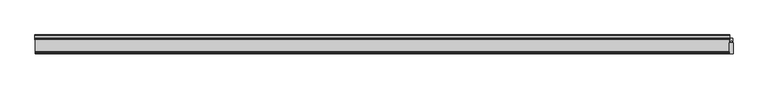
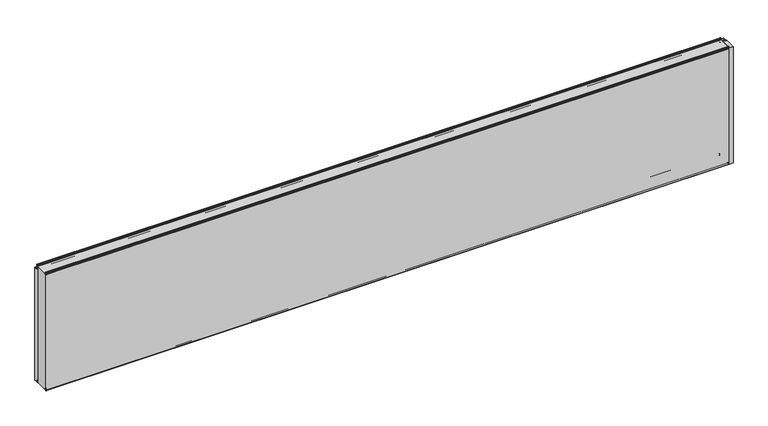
"""IFC4 building model written with IfcOpenShell, lengths in millimetres: plate geometry, Fronttop : Fronttop 150/1000."""

import ifcopenshell
import ifcopenshell.guid

model = None  # the IFC model being written
_history = None  # IfcOwnerHistory: only IFC2X3 demands one
_inside = {}  # id of a spatial element -> (the spatial element, [elements in it])
_under = {}  # id of a project, library or spatial element -> (it, [spatial elements below it])
_declared = {}  # id of a project -> (the project, [libraries it declares])
_typed = {}  # id of a type object -> (the type object, [elements of that type])
_made_of = {}  # id of a material, layer set ... -> (it, [elements and type objects made of it])


def new_model(schema):
    """Start an empty IFC model of exactly this schema.

    Asked for "IFC4X3", IfcOpenShell would pick the latest addendum, in which some entities
    have other attributes; the version numbers below select the first issue.
    IFC2X3 requires an IfcOwnerHistory on every rooted entity: one is made here for all.
    """
    global model, _history
    if schema == "IFC4X3":
        model = ifcopenshell.file(schema_version=(4, 3, 0, 0))
    else:
        model = ifcopenshell.file(schema=schema)
    _inside.clear()
    _under.clear()
    _declared.clear()
    _typed.clear()
    _made_of.clear()
    _history = None
    if model.schema == "IFC2X3":
        org = make("IfcOrganization", Name="unknown")
        user = make(
            "IfcPersonAndOrganization",
            ThePerson=make("IfcPerson", FamilyName="unknown"),
            TheOrganization=org,
        )
        app = make(
            "IfcApplication",
            ApplicationDeveloper=org,
            Version="unknown",
            ApplicationFullName="unknown",
            ApplicationIdentifier="unknown",
        )
        _history = make(
            "IfcOwnerHistory",
            OwningUser=user,
            OwningApplication=app,
            ChangeAction="ADDED",
            CreationDate=0,
        )
    return model


def make(cls, **values):
    """One entity of the class cls with the attributes given. An attribute that is None is left unset."""
    return model.create_entity(
        cls, **{name: value for name, value in values.items() if value is not None}
    )


def rooted(cls, **values):
    """An entity with a GlobalId (a new one), such as an element, a storey or a relation."""
    return make(cls, GlobalId=ifcopenshell.guid.new(), OwnerHistory=_history, **values)


def si_unit(unit_type, name, prefix=None):
    """IfcSIUnit, for example si_unit("LENGTHUNIT", "METRE", prefix="MILLI")."""
    return make("IfcSIUnit", UnitType=unit_type, Prefix=prefix, Name=name)


def assignment(units):
    """IfcUnitAssignment: the units of a project."""
    return None if units is None else make("IfcUnitAssignment", Units=units)


def point(xyz):
    """IfcCartesianPoint."""
    return None if xyz is None else make("IfcCartesianPoint", Coordinates=xyz)


def direction(xyz):
    """IfcDirection."""
    return None if xyz is None else make("IfcDirection", DirectionRatios=xyz)


def frame(location, z_axis=None, x_axis=None):
    """IfcAxis2Placement3D, a coordinate frame: its origin and axes. An axis left out is left unset."""
    return make(
        "IfcAxis2Placement3D",
        Location=point(location),
        Axis=direction(z_axis),
        RefDirection=direction(x_axis),
    )


def frame_2d(location, x_axis=None):
    """IfcAxis2Placement2D, a coordinate frame in the plane: its origin and x axis."""
    return make(
        "IfcAxis2Placement2D", Location=point(location), RefDirection=direction(x_axis)
    )


def origin():
    """The frame at (0, 0, 0) with its axes left unset."""
    return frame((0.0, 0.0, 0.0))


def origin_with_axes():
    """The frame at (0, 0, 0) with the z axis (0, 0, 1) and the x axis (1, 0, 0) written out."""
    return frame((0.0, 0.0, 0.0), z_axis=(0.0, 0.0, 1.0), x_axis=(1.0, 0.0, 0.0))


def place(relative_to, where):
    """IfcLocalPlacement: puts the frame where relative to a parent placement (None: the world)."""
    return make(
        "IfcLocalPlacement", PlacementRelTo=relative_to, RelativePlacement=where
    )


def context(
    kind, dimensions, precision=None, world=None, true_north=None, identifier=None
):
    """IfcGeometricRepresentationContext, for example the 3D "Model" context."""
    return make(
        "IfcGeometricRepresentationContext",
        ContextIdentifier=identifier,
        ContextType=kind,
        CoordinateSpaceDimension=dimensions,
        Precision=precision,
        WorldCoordinateSystem=world,
        TrueNorth=true_north,
    )


def project(units=None, contexts=None):
    """IfcProject with its units and contexts."""
    return rooted(
        "IfcProject",
        Name="project",
        RepresentationContexts=contexts,
        UnitsInContext=assignment(units),
    )


def spatial(cls, under=None, at=None, **own):
    """A site, building, storey or space (cls), placed at a placement, below another one or the project."""
    s = rooted(cls, ObjectPlacement=at, **own)
    if under is not None:
        _under.setdefault(under.id(), (under, []))[1].append(s)
    return s


def polyline(points):
    """IfcPolyline through the points."""
    return make("IfcPolyline", Points=[point(p) for p in points])


def circle_curve(where, radius):
    """IfcCircle in the frame where."""
    return make("IfcCircle", Position=where, Radius=radius)


def trimmed(basis, trim1, trim2, sense, master):
    """IfcTrimmedCurve: the piece of a basis curve between two trims."""
    return make(
        "IfcTrimmedCurve",
        BasisCurve=basis,
        Trim1=trim1,
        Trim2=trim2,
        SenseAgreement=sense,
        MasterRepresentation=master,
    )


def segment(curve, same_sense, transition):
    """IfcCompositeCurveSegment."""
    return make(
        "IfcCompositeCurveSegment",
        Transition=transition,
        SameSense=same_sense,
        ParentCurve=curve,
    )


def composite_curve(segments, self_intersect=None):
    """IfcCompositeCurve: segments joined end to end."""
    return make("IfcCompositeCurve", Segments=segments, SelfIntersect=self_intersect)


def outline(outer, holes=None, kind="AREA"):
    """IfcArbitraryClosedProfileDef: a profile drawn as a closed curve; with holes, ...WithVoids."""
    if holes is None:
        return make("IfcArbitraryClosedProfileDef", ProfileType=kind, OuterCurve=outer)
    return make(
        "IfcArbitraryProfileDefWithVoids",
        ProfileType=kind,
        OuterCurve=outer,
        InnerCurves=holes,
    )


def extrude(swept, where, along, depth):
    """IfcExtrudedAreaSolid: the profile swept, set in the frame where, extruded along a direction by depth."""
    return make(
        "IfcExtrudedAreaSolid",
        SweptArea=swept,
        Position=where,
        ExtrudedDirection=direction(along),
        Depth=depth,
    )


def shape(context_of_items, identifier, shape_type, items):
    """IfcShapeRepresentation: the items that make up one representation, for example the "Body"."""
    return make(
        "IfcShapeRepresentation",
        ContextOfItems=context_of_items,
        RepresentationIdentifier=identifier,
        RepresentationType=shape_type,
        Items=items,
    )


def source(mapping_origin, context_of_items, identifier, shape_type, items):
    """IfcRepresentationMap: a shape defined once, which mapped items show again and again."""
    return make(
        "IfcRepresentationMap",
        MappingOrigin=mapping_origin,
        MappedRepresentation=shape(context_of_items, identifier, shape_type, items),
    )


def transform(
    local_origin,
    x_axis=None,
    y_axis=None,
    z_axis=None,
    scale=None,
    scale2=None,
    scale3=None,
    uniform=True,
):
    """IfcCartesianTransformationOperator3D, or its non-uniform kind. x_axis, y_axis, z_axis: its Axis1, 2, 3."""
    if uniform:
        return make(
            "IfcCartesianTransformationOperator3D",
            Axis1=direction(x_axis),
            Axis2=direction(y_axis),
            LocalOrigin=point(local_origin),
            Scale=scale,
            Axis3=direction(z_axis),
        )
    return make(
        "IfcCartesianTransformationOperator3DnonUniform",
        Axis1=direction(x_axis),
        Axis2=direction(y_axis),
        LocalOrigin=point(local_origin),
        Scale=scale,
        Axis3=direction(z_axis),
        Scale2=scale2,
        Scale3=scale3,
    )


def mapped(mapping_source, mapping_target):
    """IfcMappedItem: shows the shape of a source again, moved by a transform."""
    return make(
        "IfcMappedItem", MappingSource=mapping_source, MappingTarget=mapping_target
    )


def made_of(thing, what):
    """Note that an element or type object is made of a material, layer set ...; save() writes the relation."""
    if what is not None:
        _made_of.setdefault(what.id(), (what, []))[1].append(thing)
    return thing


def element(
    cls,
    number,
    at=None,
    inside=None,
    cuts=None,
    type_object=None,
    material=None,
    context=None,
    identifier="Body",
    shape_type=None,
    held_by="IfcProductDefinitionShape",
    body=None,
    shapes=None,
    **own,
):
    """One element of the class cls, such as IfcWall. Its Tag is "e" and its number.

    at: its placement. inside: the storey or other place that contains it. cuts: it is an
    opening in that element (IfcRelVoidsElement). A single representation is given by context,
    identifier, shape_type and body (its items); several are given by shapes. held_by: the class
    of the entity that holds the representations. save() writes the other relations.
    """
    e = rooted(cls, Tag="e%d" % number, ObjectPlacement=at, **own)
    if body is not None:
        shapes = [shape(context, identifier, shape_type, body)]
    if shapes is not None:
        e.Representation = make(held_by, Representations=shapes)
    if inside is not None:
        _inside.setdefault(inside.id(), (inside, []))[1].append(e)
    if cuts is not None:
        rooted(
            "IfcRelVoidsElement", RelatingBuildingElement=cuts, RelatedOpeningElement=e
        )
    if type_object is not None:
        _typed.setdefault(type_object.id(), (type_object, []))[1].append(e)
    return made_of(e, material)


def aggregate(whole, parts):
    """IfcRelAggregates: a whole, such as a stair, and the parts it consists of."""
    return rooted("IfcRelAggregates", RelatingObject=whole, RelatedObjects=parts)


def save(model, path):
    """Write the relations noted so far, then the file.

    IfcRelAggregates (storeys below a building ...), IfcRelContainedInSpatialStructure (elements
    in a storey), IfcRelDefinesByType, IfcRelAssociatesMaterial and IfcRelDeclares: one each for
    every whole, place, type object, material and project.
    """
    for whole, parts in _under.values():
        aggregate(whole, parts)
    for where, things in _inside.values():
        rooted(
            "IfcRelContainedInSpatialStructure",
            RelatedElements=things,
            RelatingStructure=where,
        )
    for kind, things in _typed.values():
        rooted("IfcRelDefinesByType", RelatedObjects=things, RelatingType=kind)
    for what, things in _made_of.values():
        rooted("IfcRelAssociatesMaterial", RelatedObjects=things, RelatingMaterial=what)
    for by, libraries in _declared.values():
        rooted("IfcRelDeclares", RelatingContext=by, RelatedDefinitions=libraries)
    model.write(path)


def plane_surface(at):
    """IfcPlane: the flat surface through the origin of the frame at, square to its z axis."""
    return make("IfcPlane", Position=at)


def cylinder_surface(at, radius):
    """IfcCylindricalSurface: all points at the distance radius from the z axis of the frame at."""
    return make("IfcCylindricalSurface", Position=at, Radius=radius)


def revolved_surface(curve, axis_point, axis_direction):
    """IfcSurfaceOfRevolution: the curve turned about the line through axis_point along axis_direction."""
    return make(
        "IfcSurfaceOfRevolution",
        SweptCurve=make("IfcArbitraryOpenProfileDef", ProfileType="CURVE", Curve=curve),
        AxisPosition=make("IfcAxis1Placement", Location=point(axis_point), Axis=direction(axis_direction)),
    )


def advanced_brep(points, edges, surfaces, faces):
    """IfcAdvancedBrep: a solid bounded by faces that lie on surfaces and meet in shared edges.

    An edge is (start, end): straight between two places in points (the first is 0);
    or (start, end, curve); or (start, end, curve, False) where it runs against its curve.
    A face is (place in surfaces, loops), or (place, loops, False) where it looks against
    its surface's normal. A loop lists edges by number (the first is 1), with a minus sign
    where the edge is run from its end to its start. The first loop is the outer one.
    """
    corners = [point(p) for p in points]
    vertices = [make("IfcVertexPoint", VertexGeometry=c) for c in corners]
    made = []
    for start, end, *more in edges:
        made.append(
            make(
                "IfcEdgeCurve",
                EdgeStart=vertices[start],
                EdgeEnd=vertices[end],
                EdgeGeometry=more[0] if more else make("IfcPolyline", Points=[corners[start], corners[end]]),
                SameSense=more[1] if len(more) > 1 else True,
            )
        )
    hull = []
    for where, loops, *sense in faces:
        bounds = []
        for j, loop in enumerate(loops):
            ring = [make("IfcOrientedEdge", EdgeElement=made[abs(k) - 1], Orientation=k > 0) for k in loop]
            bounds.append(
                make(
                    "IfcFaceOuterBound" if j == 0 else "IfcFaceBound",
                    Bound=make("IfcEdgeLoop", EdgeList=ring),
                    Orientation=True,
                )
            )
        hull.append(make("IfcAdvancedFace", Bounds=bounds, FaceSurface=surfaces[where], SameSense=sense[0] if sense else True))
    return make("IfcAdvancedBrep", Outer=make("IfcClosedShell", CfsFaces=hull))


def plate_40149e77(model_context):
    return source(origin(), model_context, "Body", "SolidModel", [
        advanced_brep(
        [(-2786.5, 124.0, 1008.0), (-2786.5, 121.0, 1008.0), (-2786.5, 121.0, 1004.0), (-2786.5, 117.0, 1000.0), (-2786.5, 115.0, 1000.0), (-2786.5, 115.0, 1001.0), (-2786.5, 117.0, 1001.0), (-2786.5, 120.0, 1004.0), (-2786.5, 120.0, 1008.0), (-2786.5, 125.0, 1008.0), (-2786.5, 125.0, 1000.0), (-2786.5, 124.0, 1000.0), (2786.5, 125.0, 1008.0), (2786.5, 120.0, 1008.0), (2786.5, 120.0, 1004.0), (2786.5, 117.0, 1001.0), (2786.5, 115.0, 1001.0), (2786.5, 115.0, 1000.0), (2786.5, 117.0, 1000.0), (2786.5, 121.0, 1004.0), (2786.5, 121.0, 1008.0), (2786.5, 124.0, 1008.0), (2786.5, 124.0, 1000.0), (2786.5, 125.0, 1000.0), (-2786.5, 117.0, 2.0), (2786.5, 117.0, 2.0), (2786.5, 115.0, 2.0), (-2786.5, 115.0, 2.0), (-2786.5, 119.0, 4.0), (2786.5, 119.0, 4.0), (-2786.5, 119.0, 8.0), (2786.5, 119.0, 8.0), (-2786.5, 126.0, 8.0), (2786.5, 126.0, 8.0), (-2786.5, 126.0, 0.0), (2786.5, 126.0, 0.0), (-2786.5, 129.0, -3.0), (2786.5, 129.0, -3.0), (-2786.5, 125.0, -3.0), (-2787.5, 125.0, -3.0), (-2787.5, 147.0, -3.0), (-2786.5, 147.0, -3.0), (2786.5, 147.0, -3.0), (2787.5, 147.0, -3.0), (2787.5, 125.0, -3.0), (2786.5, 125.0, -3.0), (-2786.5, 150.0, 0.0), (2786.5, 150.0, 0.0), (-2787.5, 150.0, 0.0), (-2787.5, 150.0, 969.0), (-2786.5, 150.0, 969.0), (2786.5, 150.0, 969.0), (2787.5, 150.0, 969.0), (2787.5, 150.0, 0.0), (-2786.5, 147.0, 972.0), (2786.5, 147.0, 972.0), (-2787.5, 147.0, 972.0), (-2787.5, 128.0, 972.0), (-2786.5, 128.0, 972.0), (2786.5, 128.0, 972.0), (2787.5, 128.0, 972.0), (2787.5, 147.0, 972.0), (-2786.5, 125.0, 975.0), (2786.5, 125.0, 975.0), (-2787.5, 125.0, 975.0), (-2787.5, 125.0, 1000.0), (2787.5, 125.0, 1000.0), (2787.5, 125.0, 975.0), (-2786.5, 124.0, 975.0), (2786.5, 124.0, 975.0), (-2786.5, 128.0, 971.0), (2786.5, 128.0, 971.0), (-2786.5, 147.0, 971.0), (2786.5, 147.0, 971.0), (-2786.5, 149.0, 969.0), (2786.5, 149.0, 969.0), (-2786.5, 149.0, 0.0), (2786.5, 149.0, 0.0), (-2786.5, 147.0, -2.0), (2786.5, 147.0, -2.0), (-2786.5, 129.0, -2.0), (2786.5, 129.0, -2.0), (-2786.5, 127.0, 0.0), (2786.5, 127.0, 0.0), (-2786.5, 127.0, 8.0), (2786.5, 127.0, 8.0), (-2786.5, 118.0, 8.0), (2786.5, 118.0, 8.0), (-2786.5, 118.0, 4.0), (2786.5, 118.0, 4.0), (-2786.5, 117.0, 3.0), (2786.5, 117.0, 3.0), (-2786.5, 115.0, 3.0), (2786.5, 115.0, 3.0), (2787.5, 110.0, 1000.0), (2787.5, 110.0, 0.0), (2787.5, 125.0, 0.0), (2786.5, 125.0, 0.0), (2786.5, 110.0, 0.0), (2786.5, 110.0, 1000.0), (-2787.5, 125.0, 0.0), (-2787.5, 110.0, 0.0), (-2787.5, 110.0, 1000.0), (-2786.5, 110.0, 1000.0), (-2786.5, 110.0, 0.0), (-2786.5, 125.0, 0.0)],
        [
            (0, 1, circle_curve(frame((-2786.5, 122.5, 1008.0), z_axis=(1.0, 0.0, 0.0), x_axis=(0.0, -1.0, 0.0)), 1.5)),
            (1, 2),
            (2, 3, circle_curve(frame((-2786.5, 117.0, 1004.0), z_axis=(-1.0, 0.0, 0.0), x_axis=(0.0, -1.0, 0.0)), 4.0)),
            (3, 4),
            (4, 5),
            (5, 6),
            (6, 7, circle_curve(frame((-2786.5, 117.0, 1004.0), z_axis=(1.0, 0.0, 0.0), x_axis=(0.0, -1.0, 0.0)), 3.0)),
            (7, 8),
            (8, 9, circle_curve(frame((-2786.5, 122.5, 1008.0), z_axis=(-1.0, 0.0, 0.0), x_axis=(0.0, -1.0, 0.0)), 2.5)),
            (9, 10),
            (10, 11),
            (11, 0),
            (12, 13, circle_curve(frame((2786.5, 122.5, 1008.0), z_axis=(1.0, 0.0, 0.0), x_axis=(0.0, -1.0, 0.0)), 2.5)),
            (13, 14),
            (14, 15, circle_curve(frame((2786.5, 117.0, 1004.0), z_axis=(-1.0, 0.0, 0.0), x_axis=(0.0, -1.0, 0.0)), 3.0)),
            (15, 16),
            (16, 17),
            (17, 18),
            (18, 19, circle_curve(frame((2786.5, 117.0, 1004.0), z_axis=(1.0, 0.0, 0.0), x_axis=(0.0, -1.0, 0.0)), 4.0)),
            (19, 20),
            (20, 21, circle_curve(frame((2786.5, 122.5, 1008.0), z_axis=(-1.0, 0.0, 0.0), x_axis=(0.0, -1.0, 0.0)), 1.5)),
            (21, 22),
            (22, 23),
            (23, 12),
            (24, 25),
            (25, 26),
            (26, 27),
            (27, 24),
            (24, 28, circle_curve(frame((-2786.5, 117.0, 4.0), z_axis=(1.0, 0.0, 0.0), x_axis=(0.0, -1.0, 0.0)), 2.0)),
            (28, 29),
            (29, 25, circle_curve(frame((2786.5, 117.0, 4.0), z_axis=(-1.0, 0.0, 0.0), x_axis=(0.0, -1.0, 0.0)), 2.0)),
            (28, 30),
            (30, 31),
            (31, 29),
            (30, 32, circle_curve(frame((-2786.5, 122.5, 8.0), z_axis=(-1.0, 0.0, 0.0), x_axis=(0.0, -1.0, 0.0)), 3.5)),
            (32, 33),
            (33, 31, circle_curve(frame((2786.5, 122.5, 8.0), z_axis=(1.0, 0.0, 0.0), x_axis=(0.0, -1.0, 0.0)), 3.5)),
            (32, 34),
            (34, 35),
            (35, 33),
            (34, 36, circle_curve(frame((-2786.5, 129.0, 0.0), z_axis=(1.0, 0.0, 0.0), x_axis=(0.0, -1.0, 0.0)), 3.0)),
            (36, 37),
            (37, 35, circle_curve(frame((2786.5, 129.0, 0.0), z_axis=(-1.0, 0.0, 0.0), x_axis=(0.0, -1.0, 0.0)), 3.0)),
            (36, 38),
            (38, 39),
            (39, 40),
            (40, 41),
            (41, 42),
            (42, 43),
            (43, 44),
            (44, 45),
            (45, 37),
            (41, 46, circle_curve(frame((-2786.5, 147.0, 0.0), z_axis=(1.0, 0.0, 0.0), x_axis=(0.0, -1.0, 0.0)), 3.0)),
            (46, 47),
            (47, 42, circle_curve(frame((2786.5, 147.0, 0.0), z_axis=(-1.0, 0.0, 0.0), x_axis=(0.0, -1.0, 0.0)), 3.0)),
            (46, 48),
            (48, 49),
            (49, 50),
            (50, 51),
            (51, 52),
            (52, 53),
            (53, 47),
            (50, 54, circle_curve(frame((-2786.5, 147.0, 969.0), z_axis=(1.0, 0.0, 0.0), x_axis=(0.0, -1.0, 0.0)), 3.0)),
            (54, 55),
            (55, 51, circle_curve(frame((2786.5, 147.0, 969.0), z_axis=(-1.0, 0.0, 0.0), x_axis=(0.0, -1.0, 0.0)), 3.0)),
            (54, 56),
            (56, 57),
            (57, 58),
            (58, 59),
            (59, 60),
            (60, 61),
            (61, 55),
            (58, 62, circle_curve(frame((-2786.5, 128.0, 975.0), z_axis=(-1.0, 0.0, 0.0), x_axis=(0.0, -1.0, 0.0)), 3.0)),
            (62, 63),
            (63, 59, circle_curve(frame((2786.5, 128.0, 975.0), z_axis=(1.0, 0.0, 0.0), x_axis=(0.0, -1.0, 0.0)), 3.0)),
            (62, 64),
            (64, 65),
            (65, 10),
            (9, 12),
            (23, 66),
            (66, 67),
            (67, 63),
            (8, 13),
            (7, 14),
            (6, 15),
            (5, 16),
            (4, 17),
            (4, 3),
            (3, 18),
            (18, 17),
            (2, 19),
            (1, 20),
            (0, 21),
            (11, 68),
            (68, 69),
            (69, 22),
            (68, 70, circle_curve(frame((-2786.5, 128.0, 975.0), z_axis=(1.0, 0.0, 0.0), x_axis=(0.0, -1.0, 0.0)), 4.0)),
            (70, 71),
            (71, 69, circle_curve(frame((2786.5, 128.0, 975.0), z_axis=(-1.0, 0.0, 0.0), x_axis=(0.0, -1.0, 0.0)), 4.0)),
            (70, 72),
            (72, 73),
            (73, 71),
            (72, 74, circle_curve(frame((-2786.5, 147.0, 969.0), z_axis=(-1.0, 0.0, 0.0), x_axis=(0.0, -1.0, 0.0)), 2.0)),
            (74, 75),
            (75, 73, circle_curve(frame((2786.5, 147.0, 969.0), z_axis=(1.0, 0.0, 0.0), x_axis=(0.0, -1.0, 0.0)), 2.0)),
            (74, 76),
            (76, 77),
            (77, 75),
            (76, 78, circle_curve(frame((-2786.5, 147.0, 0.0), z_axis=(-1.0, 0.0, 0.0), x_axis=(0.0, -1.0, 0.0)), 2.0)),
            (78, 79),
            (79, 77, circle_curve(frame((2786.5, 147.0, 0.0), z_axis=(1.0, 0.0, 0.0), x_axis=(0.0, -1.0, 0.0)), 2.0)),
            (78, 80),
            (80, 81),
            (81, 79),
            (80, 82, circle_curve(frame((-2786.5, 129.0, 0.0), z_axis=(-1.0, 0.0, 0.0), x_axis=(0.0, -1.0, 0.0)), 2.0)),
            (82, 83),
            (83, 81, circle_curve(frame((2786.5, 129.0, 0.0), z_axis=(1.0, 0.0, 0.0), x_axis=(0.0, -1.0, 0.0)), 2.0)),
            (82, 84),
            (84, 85),
            (85, 83),
            (84, 86, circle_curve(frame((-2786.5, 122.5, 8.0), z_axis=(1.0, 0.0, 0.0), x_axis=(0.0, -1.0, 0.0)), 4.5)),
            (86, 87),
            (87, 85, circle_curve(frame((2786.5, 122.5, 8.0), z_axis=(-1.0, 0.0, 0.0), x_axis=(0.0, -1.0, 0.0)), 4.5)),
            (86, 88),
            (88, 89),
            (89, 87),
            (88, 90, circle_curve(frame((-2786.5, 117.0, 4.0), z_axis=(-1.0, 0.0, 0.0), x_axis=(0.0, -1.0, 0.0)), 1.0)),
            (90, 91),
            (91, 89, circle_curve(frame((2786.5, 117.0, 4.0), z_axis=(1.0, 0.0, 0.0), x_axis=(0.0, -1.0, 0.0)), 1.0)),
            (90, 92),
            (92, 93),
            (93, 91),
            (26, 93),
            (92, 27),
            (66, 94),
            (94, 95),
            (95, 96),
            (96, 44),
            (43, 53, circle_curve(frame((2787.5, 147.0, 0.0), z_axis=(1.0, 0.0, 0.0), x_axis=(0.0, 1.0, 0.0)), 3.0)),
            (52, 61, circle_curve(frame((2787.5, 147.0, 969.0), z_axis=(1.0, 0.0, 0.0), x_axis=(0.0, 1.0, 0.0)), 3.0)),
            (60, 67, circle_curve(frame((2787.5, 128.0, 975.0), z_axis=(-1.0, 0.0, 0.0), x_axis=(0.0, 1.0, 0.0)), 3.0)),
            (45, 97),
            (97, 98),
            (98, 99),
            (99, 17),
            (18, 22),
            (99, 94),
            (98, 95),
            (97, 96),
            (64, 57, circle_curve(frame((-2787.5, 128.0, 975.0), z_axis=(1.0, 0.0, 0.0), x_axis=(0.0, 1.0, 0.0)), 3.0)),
            (56, 49, circle_curve(frame((-2787.5, 147.0, 969.0), z_axis=(-1.0, 0.0, 0.0), x_axis=(0.0, 1.0, 0.0)), 3.0)),
            (48, 40, circle_curve(frame((-2787.5, 147.0, 0.0), z_axis=(-1.0, 0.0, 0.0), x_axis=(0.0, 1.0, 0.0)), 3.0)),
            (39, 100),
            (100, 101),
            (101, 102),
            (102, 65),
            (103, 104),
            (104, 105),
            (105, 38),
            (11, 3),
            (4, 103),
            (102, 103),
            (101, 104),
            (100, 105),
        ],
        [
            plane_surface(frame((-2786.5, 0.0, 0.0), z_axis=(-1.0, 0.0, 0.0), x_axis=(0.0, 0.0, 1.0))),
            plane_surface(frame((2786.5, 0.0, 0.0), z_axis=(1.0, 0.0, 0.0), x_axis=(0.0, 0.0, 1.0))),
            plane_surface(frame((-2786.5, 117.0, 2.0), z_axis=(0.0, 0.0, -1.0), x_axis=(1.0, 0.0, 0.0))),
            cylinder_surface(frame((-2786.5, 117.0, 4.0), z_axis=(-1.0, 0.0, 0.0), x_axis=(0.0, -1.0, 0.0)), 2.0),
            plane_surface(frame((-2786.5, 119.0, 8.0), z_axis=(0.0, 1.0, 0.0), x_axis=(1.0, 0.0, 0.0))),
            revolved_surface(polyline([(2786.5, 119.0, 8.0), (-2786.5, 119.0, 8.0)]), (-2786.5, 122.5, 8.0), (1.0, 0.0, 0.0)),
            plane_surface(frame((-2786.5, 126.0, 0.0), z_axis=(0.0, -1.0, 0.0), x_axis=(1.0, 0.0, 0.0))),
            cylinder_surface(frame((-2786.5, 129.0, 0.0), z_axis=(-1.0, 0.0, 0.0), x_axis=(0.0, -1.0, 0.0)), 3.0),
            plane_surface(frame((-2786.5, 147.0, -3.0), z_axis=(0.0, 0.0, -1.0), x_axis=(1.0, 0.0, 0.0))),
            cylinder_surface(frame((-2786.5, 147.0, 0.0), z_axis=(-1.0, 0.0, 0.0), x_axis=(0.0, -1.0, 0.0)), 3.0),
            plane_surface(frame((-2786.5, 150.0, 969.0), z_axis=(0.0, 1.0, 0.0), x_axis=(1.0, 0.0, 0.0))),
            cylinder_surface(frame((-2786.5, 147.0, 969.0), z_axis=(-1.0, 0.0, 0.0), x_axis=(0.0, -1.0, 0.0)), 3.0),
            plane_surface(frame((-2786.5, 128.0, 972.0), z_axis=(0.0, 0.0, 1.0), x_axis=(1.0, 0.0, 0.0))),
            revolved_surface(polyline([(2786.5, 125.0, 975.0), (-2786.5, 125.0, 975.0)]), (-2786.5, 128.0, 975.0), (1.0, 0.0, 0.0)),
            plane_surface(frame((-2786.5, 125.0, 1008.0), z_axis=(0.0, 1.0, 0.0), x_axis=(1.0, 0.0, 0.0))),
            cylinder_surface(frame((-2786.5, 122.5, 1008.0), z_axis=(-1.0, 0.0, 0.0), x_axis=(0.0, -1.0, 0.0)), 2.5),
            plane_surface(frame((-2786.5, 120.0, 1004.0), z_axis=(0.0, -1.0, 0.0), x_axis=(1.0, 0.0, 0.0))),
            revolved_surface(polyline([(2786.5, 114.0, 1004.0), (-2786.5, 114.0, 1004.0)]), (-2786.5, 117.0, 1004.0), (1.0, 0.0, 0.0)),
            plane_surface(frame((-2786.5, 115.0, 1001.0), z_axis=(0.0, 0.0, 1.0), x_axis=(1.0, 0.0, 0.0))),
            plane_surface(frame((-2786.5, 115.0, 1000.0), z_axis=(0.0, -1.0, 0.0), x_axis=(1.0, 0.0, 0.0))),
            plane_surface(frame((-2786.5, 117.0, 1000.0), z_axis=(0.0, 0.0, -1.0), x_axis=(1.0, 0.0, 0.0))),
            cylinder_surface(frame((-2786.5, 117.0, 1004.0), z_axis=(-1.0, 0.0, 0.0), x_axis=(0.0, -1.0, 0.0)), 4.0),
            plane_surface(frame((-2786.5, 121.0, 1008.0), z_axis=(0.0, 1.0, 0.0), x_axis=(1.0, 0.0, 0.0))),
            revolved_surface(polyline([(2786.5, 121.0, 1008.0), (-2786.5, 121.0, 1008.0)]), (-2786.5, 122.5, 1008.0), (1.0, 0.0, 0.0)),
            plane_surface(frame((-2786.5, 124.0, 975.0), z_axis=(0.0, -1.0, 0.0), x_axis=(1.0, 0.0, 0.0))),
            cylinder_surface(frame((-2786.5, 128.0, 975.0), z_axis=(-1.0, 0.0, 0.0), x_axis=(0.0, -1.0, 0.0)), 4.0),
            plane_surface(frame((-2786.5, 147.0, 971.0), z_axis=(0.0, 0.0, -1.0), x_axis=(1.0, 0.0, 0.0))),
            revolved_surface(polyline([(2786.5, 145.0, 969.0), (-2786.5, 145.0, 969.0)]), (-2786.5, 147.0, 969.0), (1.0, 0.0, 0.0)),
            plane_surface(frame((-2786.5, 149.0, 0.0), z_axis=(0.0, -1.0, 0.0), x_axis=(1.0, 0.0, 0.0))),
            revolved_surface(polyline([(2786.5, 145.0, 0.0), (-2786.5, 145.0, 0.0)]), (-2786.5, 147.0, 0.0), (1.0, 0.0, 0.0)),
            plane_surface(frame((-2786.5, 129.0, -2.0), z_axis=(0.0, 0.0, 1.0), x_axis=(1.0, 0.0, 0.0))),
            revolved_surface(polyline([(2786.5, 127.0, 0.0), (-2786.5, 127.0, 0.0)]), (-2786.5, 129.0, 0.0), (1.0, 0.0, 0.0)),
            plane_surface(frame((-2786.5, 127.0, 8.0), z_axis=(0.0, 1.0, 0.0), x_axis=(1.0, 0.0, 0.0))),
            cylinder_surface(frame((-2786.5, 122.5, 8.0), z_axis=(-1.0, 0.0, 0.0), x_axis=(0.0, -1.0, 0.0)), 4.5),
            plane_surface(frame((-2786.5, 118.0, 4.0), z_axis=(0.0, -1.0, 0.0), x_axis=(1.0, 0.0, 0.0))),
            revolved_surface(polyline([(2786.5, 116.0, 4.0), (-2786.5, 116.0, 4.0)]), (-2786.5, 117.0, 4.0), (1.0, 0.0, 0.0)),
            plane_surface(frame((-2786.5, 115.0, 3.0), z_axis=(0.0, 0.0, 1.0), x_axis=(1.0, 0.0, 0.0))),
            plane_surface(frame((-2786.5, 115.0, 2.0), z_axis=(0.0, -1.0, 0.0), x_axis=(1.0, 0.0, 0.0))),
            plane_surface(frame((2787.5, 125.0, 1000.0), z_axis=(1.0, 0.0, 0.0), x_axis=(0.0, -1.0, 0.0))),
            plane_surface(frame((2786.5, 125.0, 1000.0), z_axis=(-1.0, 0.0, 0.0), x_axis=(0.0, 1.0, 0.0))),
            plane_surface(frame((2787.5, 125.0, 1000.0), z_axis=(0.0, 0.0, 1.0), x_axis=(-1.0, 0.0, 0.0))),
            plane_surface(frame((2787.5, 110.0, 1000.0), z_axis=(0.0, -1.0, 0.0), x_axis=(-1.0, 0.0, 0.0))),
            plane_surface(frame((2787.5, 110.0, 0.0), z_axis=(0.0, 0.0, -1.0), x_axis=(-1.0, 0.0, 0.0))),
            cylinder_surface(frame((2786.5, 147.0, 0.0), z_axis=(1.0, 0.0, 0.0), x_axis=(0.0, 1.0, 0.0)), 3.0),
            cylinder_surface(frame((2786.5, 147.0, 969.0), z_axis=(1.0, 0.0, 0.0), x_axis=(0.0, 1.0, 0.0)), 3.0),
            revolved_surface(polyline([(2786.5, 131.0, 975.0), (2787.5, 131.0, 975.0)]), (2786.5, 128.0, 975.0), (-1.0, 0.0, 0.0)),
            plane_surface(frame((-2787.5, 125.0, 1000.0), z_axis=(-1.0, 0.0, 0.0), x_axis=(0.0, 1.0, 0.0))),
            plane_surface(frame((-2786.5, 125.0, 1000.0), z_axis=(1.0, 0.0, 0.0), x_axis=(0.0, -1.0, 0.0))),
            plane_surface(frame((-2786.5, 125.0, 1000.0), z_axis=(0.0, 0.0, 1.0), x_axis=(-1.0, 0.0, 0.0))),
            plane_surface(frame((-2786.5, 110.0, 1000.0), z_axis=(0.0, -1.0, 0.0), x_axis=(-1.0, 0.0, 0.0))),
            plane_surface(frame((-2786.5, 110.0, 0.0), z_axis=(0.0, 0.0, -1.0), x_axis=(-1.0, 0.0, 0.0))),
            cylinder_surface(frame((-2787.5, 147.0, 0.0), z_axis=(1.0, 0.0, 0.0), x_axis=(0.0, 1.0, 0.0)), 3.0),
            cylinder_surface(frame((-2787.5, 147.0, 969.0), z_axis=(1.0, 0.0, 0.0), x_axis=(0.0, 1.0, 0.0)), 3.0),
            revolved_surface(polyline([(-2787.5, 131.0, 975.0), (-2786.5, 131.0, 975.0)]), (-2787.5, 128.0, 975.0), (-1.0, 0.0, 0.0)),
            plane_surface(frame((2787.5, 125.0, 0.0), z_axis=(0.0, -1.0, 0.0), x_axis=(-1.0, 0.0, 0.0))),
            plane_surface(frame((-2786.5, 125.0, 0.0), z_axis=(0.0, -1.0, 0.0), x_axis=(-1.0, 0.0, 0.0))),
        ],
        [
            (0, [[1, 2, 3, 4, 5, 6, 7, 8, 9, 10, 11, 12]]),
            (1, [[13, 14, 15, 16, 17, 18, 19, 20, 21, 22, 23, 24]]),
            (2, [[25, 26, 27, 28]]),
            (3, [[-25, 29, 30, 31]]),
            (4, [[-30, 32, 33, 34]]),
            (5, [[-33, 35, 36, 37]]),
            (6, [[-36, 38, 39, 40]]),
            (7, [[-39, 41, 42, 43]]),
            (8, [[-42, 44, 45, 46, 47, 48, 49, 50, 51, 52]]),
            (9, [[-48, 53, 54, 55]]),
            (10, [[-54, 56, 57, 58, 59, 60, 61, 62]]),
            (11, [[-59, 63, 64, 65]]),
            (12, [[-64, 66, 67, 68, 69, 70, 71, 72]]),
            (13, [[-69, 73, 74, 75]]),
            (14, [[-74, 76, 77, 78, -10, 79, -24, 80, 81, 82]]),
            (15, [[-9, 83, -13, -79]]),
            (16, [[-8, 84, -14, -83]]),
            (17, [[-7, 85, -15, -84]]),
            (18, [[-6, 86, -16, -85]]),
            (19, [[-5, 87, -17, -86]]),
            (20, [[-87, 88, 89, 90]]),
            (21, [[-3, 91, -19, -89]]),
            (22, [[-2, 92, -20, -91]]),
            (23, [[-1, 93, -21, -92]]),
            (24, [[-93, -12, 94, 95, 96, -22]]),
            (25, [[-95, 97, 98, 99]]),
            (26, [[-98, 100, 101, 102]]),
            (27, [[-101, 103, 104, 105]]),
            (28, [[-104, 106, 107, 108]]),
            (29, [[-107, 109, 110, 111]]),
            (30, [[-110, 112, 113, 114]]),
            (31, [[-113, 115, 116, 117]]),
            (32, [[-116, 118, 119, 120]]),
            (33, [[-119, 121, 122, 123]]),
            (34, [[-122, 124, 125, 126]]),
            (35, [[-125, 127, 128, 129]]),
            (36, [[-128, 130, 131, 132]]),
            (37, [[-27, 133, -131, 134]]),
            (38, [[135, 136, 137, 138, -50, 139, -61, 140, -71, 141, -81]]),
            (39, [[142, 143, 144, 145, -90, 146, -96, -99, -102, -105, -108, -111, -114, -117, -120, -123, -126, -129, -132, -133, -26, -31, -34, -37, -40, -43, -52]]),
            (40, [[-135, -80, -23, -146, -18, -145, 147]]),
            (41, [[-136, -147, -144, 148]]),
            (42, [[-137, -148, -143, 149]]),
            (43, [[-139, -49, -55, -62]]),
            (44, [[-140, -60, -65, -72]]),
            (45, [[-141, -70, -75, -82]]),
            (46, [[-77, 150, -67, 151, -57, 152, -46, 153, 154, 155, 156]]),
            (47, [[157, 158, 159, -44, -41, -38, -35, -32, -29, -28, -134, -130, -127, -124, -121, -118, -115, -112, -109, -106, -103, -100, -97, -94, 160, -88, 161]]),
            (48, [[-156, 162, -161, -4, -160, -11, -78]]),
            (49, [[-155, 163, -157, -162]]),
            (50, [[-154, 164, -158, -163]]),
            (51, [[-152, -56, -53, -47]]),
            (52, [[-151, -66, -63, -58]]),
            (53, [[-150, -76, -73, -68]]),
            (54, [[-138, -149, -142, -51]]),
            (55, [[-153, -45, -159, -164]]),
        ],
    ),
        extrude(outline(composite_curve([segment(polyline([(2787.4998455, 123.5), (2799.25, 123.5), (2799.25, 107.5), (2800.75, 107.5), (2800.75, 123.5), (2812.5001545, 123.5), (2812.5001545, 90.0), (2809.75, 90.0), (2809.75, 92.5)]), True, "CONTINUOUS"), segment(trimmed(circle_curve(frame_2d((2791.9661979, 89.3183984)), 18.0661619), [point((2809.75, 92.5))], [point((2800.0, 105.5))], True, "CARTESIAN"), True, "CONTINUOUS"), segment(trimmed(circle_curve(frame_2d((2808.0338021, 89.3183984)), 18.0661619), [point((2800.0, 105.5))], [point((2790.25, 92.5))], True, "CARTESIAN"), True, "CONTINUOUS"), segment(polyline([(2790.25, 92.5), (2790.25, 90.0), (2787.4998455, 90.0), (2787.4998455, 123.5)]), True, "CONTINUOUS")], self_intersect=False)), origin_with_axes(), (0.0, 0.0, 1.0), 1000.0),
        extrude(outline(polyline([(2815.5, 0.0), (2784.5, 0.0), (2784.5, 88.0), (2815.5, 88.0), (2815.5, 0.0)])), origin_with_axes(), (0.0, 0.0, 1.0), 1000.0),
        extrude(outline(polyline([(2788.4948846, 125.0), (2811.5051154, 125.0), (2811.5051154, 123.5), (2800.6502496, 123.5), (2800.6502496, 109.0759655), (2799.35, 109.0759655), (2799.35, 123.5), (2788.4948846, 123.5), (2788.4948846, 125.0)])), origin_with_axes(), (0.0, 0.0, 1.0), 1000.0),
        advanced_brep(
        [(-2784.5, 13.0, 1001.0), (-2784.5, 15.0, 1001.0), (-2784.5, 15.0, 1000.0), (-2784.5, 13.0, 1000.0), (-2784.5, 9.0, 1004.0), (-2784.5, 9.0, 1008.0), (-2784.5, 6.0, 1008.0), (-2784.5, 6.0, 999.5), (-2784.5, 2.1134897, 996.0214069), (-2784.5, 1.0, 995.0), (-2784.5, 1.0, -0.5), (-2784.5, 3.0, -0.5), (-2784.5, 3.0, 8.0), (-2784.5, 12.0, 8.0), (-2784.5, 12.0, 4.0), (-2784.5, 13.0, 3.0), (-2784.5, 15.0, 3.0), (-2784.5, 15.0, 2.0), (-2784.5, 13.0, 2.0), (-2784.5, 11.0, 4.0), (-2784.5, 11.0, 8.0), (-2784.5, 4.0, 8.0), (-2784.5, 4.0, -0.5), (-2784.5, 0.0, -0.5), (-2784.5, 0.0, 995.0), (-2784.5, 2.220863, 996.9877675), (-2784.5, 5.0, 999.5), (-2784.5, 5.0, 1008.0), (-2784.5, 10.0, 1008.0), (-2784.5, 10.0, 1004.0), (2784.5, 13.0, 1001.0), (2784.5, 10.0, 1004.0), (2784.5, 10.0, 1008.0), (2784.5, 5.0, 1008.0), (2784.5, 5.0, 999.5), (2784.5, 2.2239212, 997.0152907), (2784.5, 0.0, 995.0), (2784.5, 0.0, -0.5), (2784.5, 4.0, -0.5), (2784.5, 4.0, 8.0), (2784.5, 11.0, 8.0), (2784.5, 11.0, 4.0), (2784.5, 13.0, 2.0), (2784.5, 15.0, 2.0), (2784.5, 15.0, 3.0), (2784.5, 13.0, 3.0), (2784.5, 12.0, 4.0), (2784.5, 12.0, 8.0), (2784.5, 3.0, 8.0), (2784.5, 3.0, -0.5), (2784.5, 1.0, -0.5), (2784.5, 1.0, 995.0), (2784.5, 2.1104315, 995.9938837), (2784.5, 6.0, 999.5), (2784.5, 6.0, 1008.0), (2784.5, 9.0, 1008.0), (2784.5, 9.0, 1004.0), (2784.5, 13.0, 1000.0), (2784.5, 15.0, 1000.0), (2784.5, 15.0, 1001.0)],
        [
            (0, 1),
            (1, 2),
            (2, 3),
            (3, 4, circle_curve(frame((-2784.5, 13.0, 1004.0), z_axis=(-1.0, 0.0, 0.0), x_axis=(0.0, -1.0, 0.0)), 4.0)),
            (4, 5),
            (5, 6, circle_curve(frame((-2784.5, 7.5, 1008.0), z_axis=(1.0, 0.0, 0.0), x_axis=(0.0, -1.0, 0.0)), 1.5)),
            (6, 7),
            (7, 8, circle_curve(frame((-2784.5, 2.5, 999.5), z_axis=(-1.0, 0.0, 0.0), x_axis=(0.0, -1.0, 0.0)), 3.5)),
            (8, 9, circle_curve(frame((-2784.5, 2.0, 995.0), z_axis=(1.0, 0.0, 0.0), x_axis=(0.0, -1.0, 0.0)), 1.0)),
            (9, 10),
            (10, 11, circle_curve(frame((-2784.5, 2.0, -0.5), z_axis=(1.0, 0.0, 0.0), x_axis=(0.0, -1.0, 0.0)), 1.0)),
            (11, 12),
            (12, 13, circle_curve(frame((-2784.5, 7.5, 8.0), z_axis=(-1.0, 0.0, 0.0), x_axis=(0.0, -1.0, 0.0)), 4.5)),
            (13, 14),
            (14, 15, circle_curve(frame((-2784.5, 13.0, 4.0), z_axis=(1.0, 0.0, 0.0), x_axis=(0.0, -1.0, 0.0)), 1.0)),
            (15, 16),
            (16, 17),
            (17, 18),
            (18, 19, circle_curve(frame((-2784.5, 13.0, 4.0), z_axis=(-1.0, 0.0, 0.0), x_axis=(0.0, -1.0, 0.0)), 2.0)),
            (19, 20),
            (20, 21, circle_curve(frame((-2784.5, 7.5, 8.0), z_axis=(1.0, 0.0, 0.0), x_axis=(0.0, -1.0, 0.0)), 3.5)),
            (21, 22),
            (22, 23, circle_curve(frame((-2784.5, 2.0, -0.5), z_axis=(-1.0, 0.0, 0.0), x_axis=(0.0, -1.0, 0.0)), 2.0)),
            (23, 24),
            (24, 25, circle_curve(frame((-2784.5, 2.0, 995.0), z_axis=(-1.0, 0.0, 0.0), x_axis=(0.0, -1.0, 0.0)), 2.0)),
            (25, 26, circle_curve(frame((-2784.5, 2.5, 999.5), z_axis=(1.0, 0.0, 0.0), x_axis=(0.0, -1.0, 0.0)), 2.5)),
            (26, 27),
            (27, 28, circle_curve(frame((-2784.5, 7.5, 1008.0), z_axis=(-1.0, 0.0, 0.0), x_axis=(0.0, -1.0, 0.0)), 2.5)),
            (28, 29),
            (29, 0, circle_curve(frame((-2784.5, 13.0, 1004.0), z_axis=(1.0, 0.0, 0.0), x_axis=(0.0, -1.0, 0.0)), 3.0)),
            (30, 31, circle_curve(frame((2784.5, 13.0, 1004.0), z_axis=(-1.0, 0.0, 0.0), x_axis=(0.0, -1.0, 0.0)), 3.0)),
            (31, 32),
            (32, 33, circle_curve(frame((2784.5, 7.5, 1008.0), z_axis=(1.0, 0.0, 0.0), x_axis=(0.0, -1.0, 0.0)), 2.5)),
            (33, 34),
            (34, 35, circle_curve(frame((2784.5, 2.5, 999.5), z_axis=(-1.0, 0.0, 0.0), x_axis=(0.0, -1.0, 0.0)), 2.5)),
            (35, 36, circle_curve(frame((2784.5, 2.0, 995.0), z_axis=(1.0, 0.0, 0.0), x_axis=(0.0, -1.0, 0.0)), 2.0)),
            (36, 37),
            (37, 38, circle_curve(frame((2784.5, 2.0, -0.5), z_axis=(1.0, 0.0, 0.0), x_axis=(0.0, -1.0, 0.0)), 2.0)),
            (38, 39),
            (39, 40, circle_curve(frame((2784.5, 7.5, 8.0), z_axis=(-1.0, 0.0, 0.0), x_axis=(0.0, -1.0, 0.0)), 3.5)),
            (40, 41),
            (41, 42, circle_curve(frame((2784.5, 13.0, 4.0), z_axis=(1.0, 0.0, 0.0), x_axis=(0.0, -1.0, 0.0)), 2.0)),
            (42, 43),
            (43, 44),
            (44, 45),
            (45, 46, circle_curve(frame((2784.5, 13.0, 4.0), z_axis=(-1.0, 0.0, 0.0), x_axis=(0.0, -1.0, 0.0)), 1.0)),
            (46, 47),
            (47, 48, circle_curve(frame((2784.5, 7.5, 8.0), z_axis=(1.0, 0.0, 0.0), x_axis=(0.0, -1.0, 0.0)), 4.5)),
            (48, 49),
            (49, 50, circle_curve(frame((2784.5, 2.0, -0.5), z_axis=(-1.0, 0.0, 0.0), x_axis=(0.0, -1.0, 0.0)), 1.0)),
            (50, 51),
            (51, 52, circle_curve(frame((2784.5, 2.0, 995.0), z_axis=(-1.0, 0.0, 0.0), x_axis=(0.0, -1.0, 0.0)), 1.0)),
            (52, 53, circle_curve(frame((2784.5, 2.5, 999.5), z_axis=(1.0, 0.0, 0.0), x_axis=(0.0, -1.0, 0.0)), 3.5)),
            (53, 54),
            (54, 55, circle_curve(frame((2784.5, 7.5, 1008.0), z_axis=(-1.0, 0.0, 0.0), x_axis=(0.0, -1.0, 0.0)), 1.5)),
            (55, 56),
            (56, 57, circle_curve(frame((2784.5, 13.0, 1004.0), z_axis=(1.0, 0.0, 0.0), x_axis=(0.0, -1.0, 0.0)), 4.0)),
            (57, 58),
            (58, 59),
            (59, 30),
            (0, 30),
            (59, 1),
            (58, 2),
            (57, 3),
            (56, 4),
            (55, 5),
            (54, 6),
            (53, 7),
            (52, 8),
            (51, 9),
            (50, 10),
            (49, 11),
            (48, 12),
            (47, 13),
            (46, 14),
            (45, 15),
            (44, 16),
            (43, 17),
            (42, 18),
            (41, 19),
            (40, 20),
            (39, 21),
            (38, 22),
            (37, 23),
            (36, 24),
            (35, 25),
            (34, 26),
            (33, 27),
            (32, 28),
            (31, 29),
        ],
        [
            plane_surface(frame((-2784.5, 0.0, 0.0), z_axis=(-1.0, 0.0, 0.0), x_axis=(0.0, 0.0, 1.0))),
            plane_surface(frame((2784.5, 0.0, 0.0), z_axis=(1.0, 0.0, 0.0), x_axis=(0.0, 0.0, 1.0))),
            plane_surface(frame((-2784.5, 13.0, 1001.0), z_axis=(0.0, 0.0, 1.0), x_axis=(1.0, 0.0, 0.0))),
            plane_surface(frame((-2784.5, 15.0, 1001.0), z_axis=(0.0, 1.0, 0.0), x_axis=(1.0, 0.0, 0.0))),
            plane_surface(frame((-2784.5, 15.0, 1000.0), z_axis=(0.0, 0.0, -1.0), x_axis=(1.0, 0.0, 0.0))),
            cylinder_surface(frame((-2784.5, 13.0, 1004.0), z_axis=(-1.0, 0.0, 0.0), x_axis=(0.0, -1.0, 0.0)), 4.0),
            plane_surface(frame((-2784.5, 9.0, 1004.0), z_axis=(0.0, -1.0, 0.0), x_axis=(1.0, 0.0, 0.0))),
            revolved_surface(polyline([(2784.5, 6.0, 1008.0), (-2784.5, 6.0, 1008.0)]), (-2784.5, 7.5, 1008.0), (1.0, 0.0, 0.0)),
            plane_surface(frame((-2784.5, 6.0, 1008.0), z_axis=(0.0, 1.0, 0.0), x_axis=(1.0, 0.0, 0.0))),
            cylinder_surface(frame((-2784.5, 2.5, 999.5), z_axis=(-1.0, 0.0, 0.0), x_axis=(0.0, -1.0, 0.0)), 3.5),
            revolved_surface(polyline([(2784.5, 1.0, 995.0), (-2784.5, 1.0, 995.0)]), (-2784.5, 2.0, 995.0), (1.0, 0.0, 0.0)),
            plane_surface(frame((-2784.5, 1.0, 995.0), z_axis=(0.0, 1.0, 0.0), x_axis=(1.0, 0.0, 0.0))),
            revolved_surface(polyline([(2784.5, 1.0, -0.5), (-2784.5, 1.0, -0.5)]), (-2784.5, 2.0, -0.5), (1.0, 0.0, 0.0)),
            plane_surface(frame((-2784.5, 3.0, -0.5), z_axis=(0.0, -1.0, 0.0), x_axis=(1.0, 0.0, 0.0))),
            cylinder_surface(frame((-2784.5, 7.5, 8.0), z_axis=(-1.0, 0.0, 0.0), x_axis=(0.0, -1.0, 0.0)), 4.5),
            plane_surface(frame((-2784.5, 12.0, 8.0), z_axis=(0.0, 1.0, 0.0), x_axis=(1.0, 0.0, 0.0))),
            revolved_surface(polyline([(2784.5, 12.0, 4.0), (-2784.5, 12.0, 4.0)]), (-2784.5, 13.0, 4.0), (1.0, 0.0, 0.0)),
            plane_surface(frame((-2784.5, 13.0, 3.0), z_axis=(0.0, 0.0, 1.0), x_axis=(1.0, 0.0, 0.0))),
            plane_surface(frame((-2784.5, 15.0, 3.0), z_axis=(0.0, 1.0, 0.0), x_axis=(1.0, 0.0, 0.0))),
            plane_surface(frame((-2784.5, 15.0, 2.0), z_axis=(0.0, 0.0, -1.0), x_axis=(1.0, 0.0, 0.0))),
            cylinder_surface(frame((-2784.5, 13.0, 4.0), z_axis=(-1.0, 0.0, 0.0), x_axis=(0.0, -1.0, 0.0)), 2.0),
            plane_surface(frame((-2784.5, 11.0, 4.0), z_axis=(0.0, -1.0, 0.0), x_axis=(1.0, 0.0, 0.0))),
            revolved_surface(polyline([(2784.5, 4.0, 8.0), (-2784.5, 4.0, 8.0)]), (-2784.5, 7.5, 8.0), (1.0, 0.0, 0.0)),
            plane_surface(frame((-2784.5, 4.0, 8.0), z_axis=(0.0, 1.0, 0.0), x_axis=(1.0, 0.0, 0.0))),
            cylinder_surface(frame((-2784.5, 2.0, -0.5), z_axis=(-1.0, 0.0, 0.0), x_axis=(0.0, -1.0, 0.0)), 2.0),
            plane_surface(frame((-2784.5, 0.0, -0.5), z_axis=(0.0, -1.0, 0.0), x_axis=(1.0, 0.0, 0.0))),
            cylinder_surface(frame((-2784.5, 2.0, 995.0), z_axis=(-1.0, 0.0, 0.0), x_axis=(0.0, -1.0, 0.0)), 2.0),
            revolved_surface(polyline([(2784.5, 0.0, 999.5), (-2784.5, 0.0, 999.5)]), (-2784.5, 2.5, 999.5), (1.0, 0.0, 0.0)),
            plane_surface(frame((-2784.5, 5.0, 999.5), z_axis=(0.0, -1.0, 0.0), x_axis=(1.0, 0.0, 0.0))),
            cylinder_surface(frame((-2784.5, 7.5, 1008.0), z_axis=(-1.0, 0.0, 0.0), x_axis=(0.0, -1.0, 0.0)), 2.5),
            plane_surface(frame((-2784.5, 10.0, 1008.0), z_axis=(0.0, 1.0, 0.0), x_axis=(1.0, 0.0, 0.0))),
            revolved_surface(polyline([(2784.5, 10.0, 1004.0), (-2784.5, 10.0, 1004.0)]), (-2784.5, 13.0, 1004.0), (1.0, 0.0, 0.0)),
        ],
        [
            (0, [[1, 2, 3, 4, 5, 6, 7, 8, 9, 10, 11, 12, 13, 14, 15, 16, 17, 18, 19, 20, 21, 22, 23, 24, 25, 26, 27, 28, 29, 30]]),
            (1, [[31, 32, 33, 34, 35, 36, 37, 38, 39, 40, 41, 42, 43, 44, 45, 46, 47, 48, 49, 50, 51, 52, 53, 54, 55, 56, 57, 58, 59, 60]]),
            (2, [[-1, 61, -60, 62]]),
            (3, [[-2, -62, -59, 63]]),
            (4, [[-3, -63, -58, 64]]),
            (5, [[-4, -64, -57, 65]]),
            (6, [[-5, -65, -56, 66]]),
            (7, [[-6, -66, -55, 67]]),
            (8, [[-7, -67, -54, 68]]),
            (9, [[-8, -68, -53, 69]]),
            (10, [[-9, -69, -52, 70]]),
            (11, [[-10, -70, -51, 71]]),
            (12, [[-11, -71, -50, 72]]),
            (13, [[-12, -72, -49, 73]]),
            (14, [[-13, -73, -48, 74]]),
            (15, [[-14, -74, -47, 75]]),
            (16, [[-15, -75, -46, 76]]),
            (17, [[-16, -76, -45, 77]]),
            (18, [[-17, -77, -44, 78]]),
            (19, [[-18, -78, -43, 79]]),
            (20, [[-19, -79, -42, 80]]),
            (21, [[-20, -80, -41, 81]]),
            (22, [[-21, -81, -40, 82]]),
            (23, [[-22, -82, -39, 83]]),
            (24, [[-23, -83, -38, 84]]),
            (25, [[-24, -84, -37, 85]]),
            (26, [[-25, -85, -36, 86]]),
            (27, [[-26, -86, -35, 87]]),
            (28, [[-27, -87, -34, 88]]),
            (29, [[-28, -88, -33, 89]]),
            (30, [[-29, -89, -32, 90]]),
            (31, [[-30, -90, -31, -61]]),
        ],
    ),
        extrude(outline(composite_curve([segment(polyline([(15.0, 3.0), (13.0, 3.0)]), True, "CONTINUOUS"), segment(trimmed(circle_curve(frame_2d((13.0, 4.0)), 1.0), [point((13.0, 3.0))], [point((12.0, 4.0))], False, "CARTESIAN"), True, "CONTINUOUS"), segment(polyline([(12.0, 4.0), (12.0, 8.0)]), True, "CONTINUOUS"), segment(trimmed(circle_curve(frame_2d((7.5, 8.0)), 4.5), [point((12.0, 8.0))], [point((3.0, 8.0))], True, "CARTESIAN"), True, "CONTINUOUS"), segment(polyline([(3.0, 8.0), (3.0, -0.5)]), True, "CONTINUOUS"), segment(trimmed(circle_curve(frame_2d((2.0, -0.5)), 1.0), [point((3.0, -0.5))], [point((1.0, -0.5))], False, "CARTESIAN"), True, "CONTINUOUS"), segment(polyline([(1.0, -0.5), (1.0, 995.0278643)]), True, "CONTINUOUS"), segment(trimmed(circle_curve(frame_2d((2.0, 995.0278643)), 1.0), [point((1.0, 995.0278643))], [point((2.1111111, 996.0216723))], False, "CARTESIAN"), True, "CONTINUOUS"), segment(trimmed(circle_curve(frame_2d((2.5, 999.5)), 3.5), [point((2.1111111, 996.0216723))], [point((6.0, 999.5))], True, "CARTESIAN"), True, "CONTINUOUS"), segment(polyline([(6.0, 999.5), (6.0, 1008.0)]), True, "CONTINUOUS"), segment(trimmed(circle_curve(frame_2d((7.5, 1008.0)), 1.5), [point((6.0, 1008.0))], [point((9.0, 1008.0))], False, "CARTESIAN"), True, "CONTINUOUS"), segment(polyline([(9.0, 1008.0), (9.0, 1004.0)]), True, "CONTINUOUS"), segment(trimmed(circle_curve(frame_2d((13.0, 1004.0)), 4.0), [point((9.0, 1004.0))], [point((13.0, 1000.0))], True, "CARTESIAN"), True, "CONTINUOUS"), segment(polyline([(13.0, 1000.0), (117.0, 1000.0)]), True, "CONTINUOUS"), segment(trimmed(circle_curve(frame_2d((117.0, 1004.0)), 4.0), [point((117.0, 1000.0))], [point((121.0, 1004.0))], True, "CARTESIAN"), True, "CONTINUOUS"), segment(polyline([(121.0, 1004.0), (121.0, 1008.0)]), True, "CONTINUOUS"), segment(trimmed(circle_curve(frame_2d((122.5, 1008.0)), 1.5), [point((121.0, 1008.0))], [point((124.0, 1008.0))], False, "CARTESIAN"), True, "CONTINUOUS"), segment(polyline([(124.0, 1008.0), (124.0, 975.0)]), True, "CONTINUOUS"), segment(trimmed(circle_curve(frame_2d((128.0, 975.0)), 4.0), [point((124.0, 975.0))], [point((128.0, 971.0))], True, "CARTESIAN"), True, "CONTINUOUS"), segment(polyline([(128.0, 971.0), (147.0, 971.0)]), True, "CONTINUOUS"), segment(trimmed(circle_curve(frame_2d((147.0, 969.0)), 2.0), [point((147.0, 971.0))], [point((149.0, 969.0))], False, "CARTESIAN"), True, "CONTINUOUS"), segment(polyline([(149.0, 969.0), (149.0, 0.0)]), True, "CONTINUOUS"), segment(trimmed(circle_curve(frame_2d((147.0, 0.0)), 2.0), [point((149.0, 0.0))], [point((147.0, -2.0))], False, "CARTESIAN"), True, "CONTINUOUS"), segment(polyline([(147.0, -2.0), (129.0, -2.0)]), True, "CONTINUOUS"), segment(trimmed(circle_curve(frame_2d((129.0, 0.0)), 2.0), [point((129.0, -2.0))], [point((127.0, 0.0))], False, "CARTESIAN"), True, "CONTINUOUS"), segment(polyline([(127.0, 0.0), (127.0, 8.0)]), True, "CONTINUOUS"), segment(trimmed(circle_curve(frame_2d((122.5, 8.0)), 4.5), [point((127.0, 8.0))], [point((118.0, 8.0))], True, "CARTESIAN"), True, "CONTINUOUS"), segment(polyline([(118.0, 8.0), (118.0, 4.0)]), True, "CONTINUOUS"), segment(trimmed(circle_curve(frame_2d((117.0, 4.0)), 1.0), [point((118.0, 4.0))], [point((117.0, 3.0))], False, "CARTESIAN"), True, "CONTINUOUS"), segment(polyline([(117.0, 3.0), (115.0, 3.0), (115.0, 0.0), (15.0, 0.0), (15.0, 3.0)]), True, "CONTINUOUS")], self_intersect=False)), frame((-2784.5, 0.0, 0.0), z_axis=(1.0, 0.0, 0.0), x_axis=(0.0, 1.0, 0.0)), (0.0, 0.0, 1.0), 5569.0),
    ])


if __name__ == "__main__":
    model = new_model("IFC4")
    model_context = context("Model", 3, world=origin())
    ifc_project = project(units=[si_unit("LENGTHUNIT", "METRE", prefix="MILLI")], contexts=[model_context])
    site = spatial("IfcSite", under=ifc_project)
    building = spatial("IfcBuilding", under=site)
    placement = place(None, origin())
    plate_shape = plate_40149e77(model_context)
    element("IfcPlate", 1, ObjectType="Fronttop : Fronttop 150/1000", at=placement, inside=building, context=model_context, shape_type="MappedRepresentation", body=[
        mapped(plate_shape, transform((0.0, 0.0, 0.0), x_axis=(1.0, 0.0, 0.0), y_axis=(0.0, 1.0, 0.0), z_axis=(0.0, 0.0, 1.0))),
    ])
    save(model, "model.ifc")
